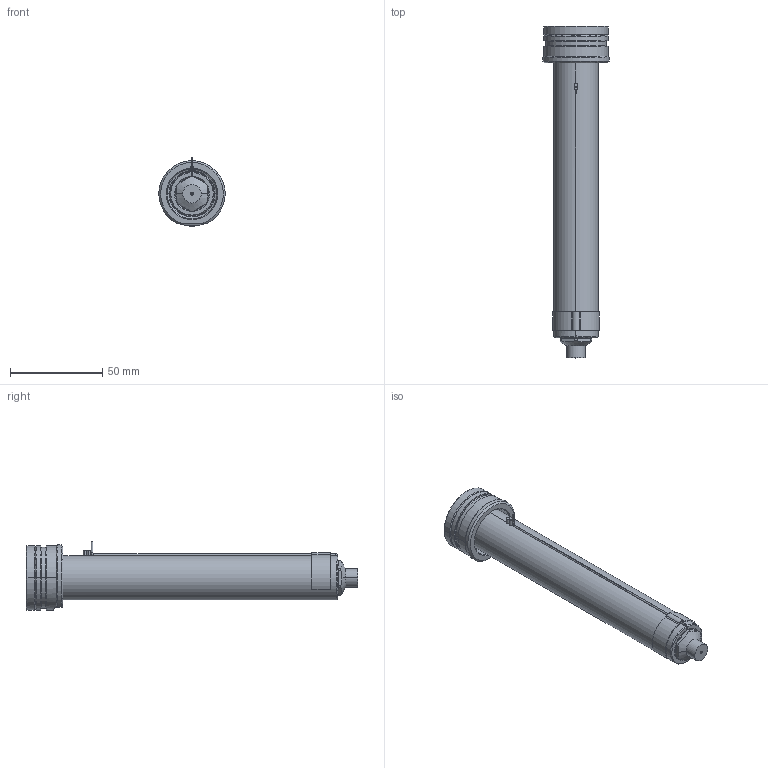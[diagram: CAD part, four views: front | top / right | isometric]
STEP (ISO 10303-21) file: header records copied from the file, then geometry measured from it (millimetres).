
FILE_DESCRIPTION((''),'2;1');
FILE_NAME('EO06_PG-FB_STD_160_SW','2024-02-19T11:26:29',('sundharh'),(''),'CREO PARAMETRIC BY PTC INC, 2023154','CREO PARAMETRIC BY PTC INC, 2023154','');
FILE_SCHEMA(('CONFIG_CONTROL_DESIGN'));
Length unit declared in the file: millimetre
Products named in the file (1): EO06_PG-FB_STD_160_SW
Bounding box: 35.93 x 180 x 37 mm (x, y, z)
Volume: 81585.1 mm3; surface area: 23030.4 mm2
Topology: 2 solids, 2 shells, 209 faces, 564 edges, 345 vertices
Faces by surface type: cylinder 85, plane 54, cone 40, torus 21, bspline 6, sphere 3
Entity records: 7619 total; most frequent: CARTESIAN_POINT 2298, DIRECTION 1171, ORIENTED_EDGE 1108, EDGE_CURVE 554, AXIS2_PLACEMENT_3D 492, VERTEX_POINT 345, CIRCLE 289, EDGE_LOOP 225
